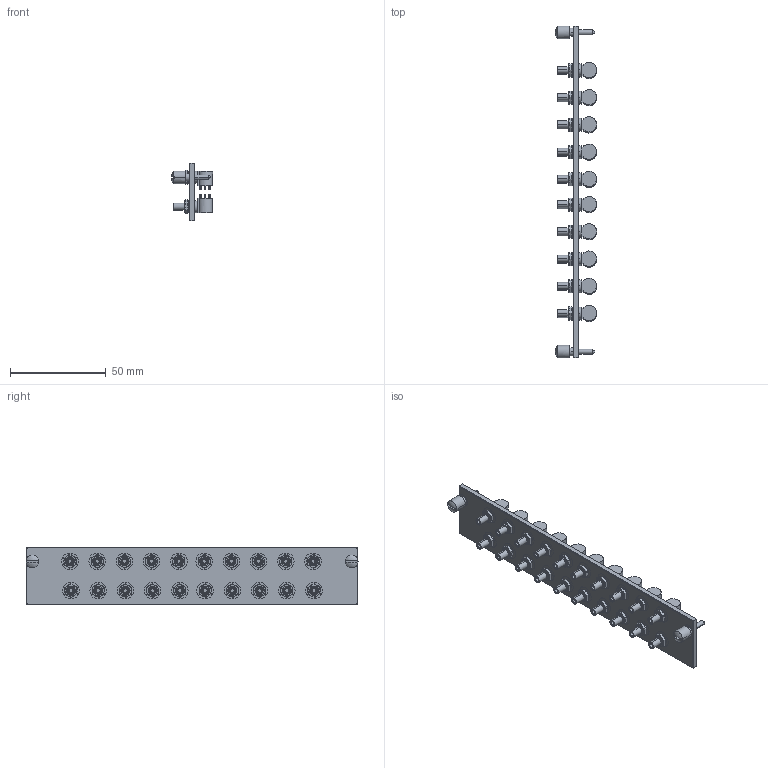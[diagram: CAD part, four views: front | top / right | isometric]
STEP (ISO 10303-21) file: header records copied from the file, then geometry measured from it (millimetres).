
FILE_DESCRIPTION((''),'2;1');
FILE_NAME('CU_SCXI-1190','2010-01-04T',('jjorden'),(''),'PRO/ENGINEER BY PARAMETRIC TECHNOLOGY CORPORATION, 2006080','PRO/ENGINEER BY PARAMETRIC TECHNOLOGY CORPORATION, 2006080','');
FILE_SCHEMA(('CONFIG_CONTROL_DESIGN'));
Length unit declared in the file: inch
Products named in the file (1): CU_SCXI-1190
Bounding box: 21.47 x 173.48 x 30.18 mm (x, y, z)
Volume: 25802.5 mm3; surface area: 24857.4 mm2
Topology: 21 solids, 21 shells, 1377 faces, 3340 edges, 2170 vertices
Faces by surface type: plane 903, cylinder 386, cone 84, sphere 4
Entity records: 44398 total; most frequent: CARTESIAN_POINT 11443, DIRECTION 6954, ORIENTED_EDGE 6672, EDGE_CURVE 3336, AXIS2_PLACEMENT_3D 2481, VERTEX_POINT 2170, VECTOR 1992, LINE 1992
